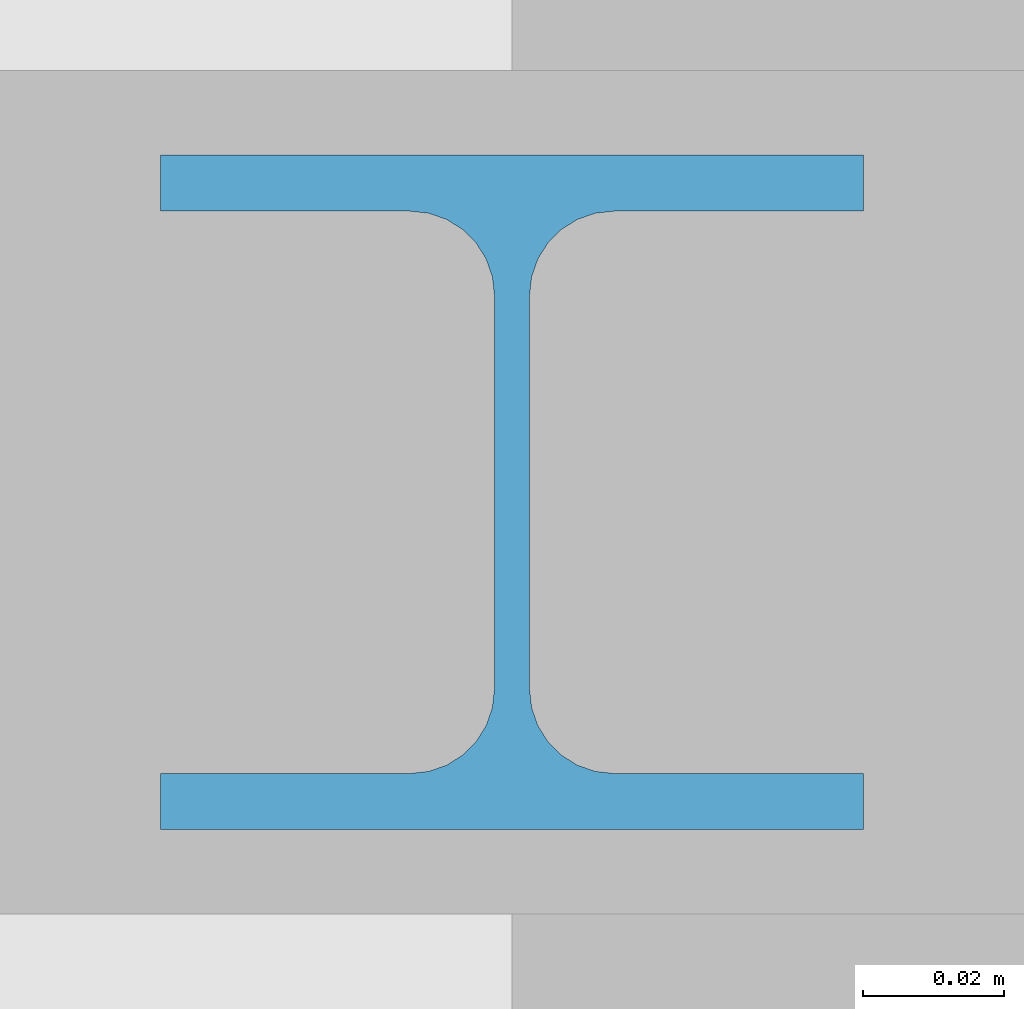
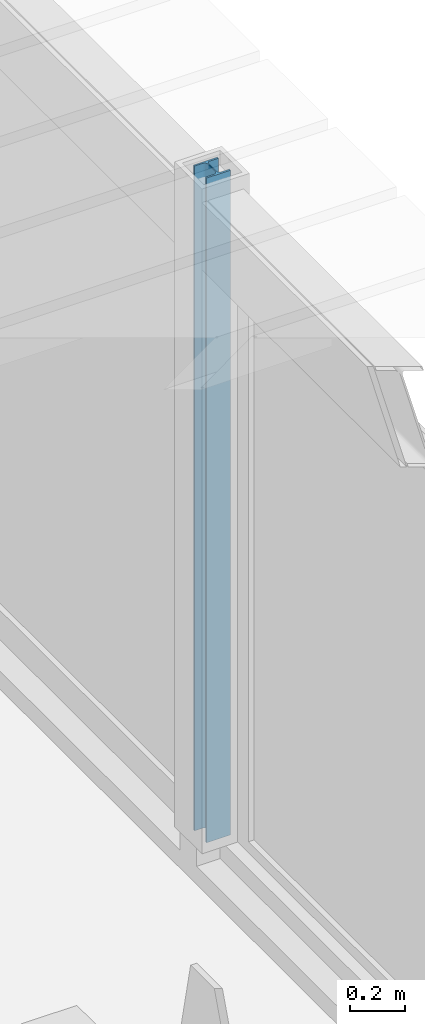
# One storey, part 7 of 28: 1 member.
"""IFC4X3_ADD2 building model written with IfcOpenShell, lengths in metres."""

from ifc_helpers import new_model, si_unit, direction, frame, origin_with_axes, origin_2d_with_axis, place, context, subcontext, project, spatial, i_section, extrude, material, element, save


model = new_model("IFC4X3_ADD2")

# Units and contexts
model_context = context("Model", 3, precision=1e-05, world=origin_with_axes(), true_north=direction((0.0, 1.0)))
body_context = subcontext(model_context, "Body", "Model", "MODEL_VIEW")
ifc_project = project(units=[si_unit("LENGTHUNIT", "METRE"), si_unit("AREAUNIT", "SQUARE_METRE"), si_unit("VOLUMEUNIT", "CUBIC_METRE"), si_unit("PLANEANGLEUNIT", "RADIAN"), si_unit("TIMEUNIT", "SECOND"), si_unit("MASSUNIT", "GRAM")], contexts=[model_context])

# Site, building, storey
site_placement = place(None, origin_with_axes())
site = spatial("IfcSite", under=ifc_project, at=site_placement, Name="Site", CompositionType="ELEMENT")
building_placement = place(site_placement, origin_with_axes())
building = spatial("IfcBuilding", under=site, at=building_placement, Name="Default Building")
storey_placement = place(building_placement, frame((0.0, 0.0, -0.08), z_axis=(0.0, 0.0, 1.0), x_axis=(1.0, 0.0, 0.0)))
storey = spatial("IfcBuildingStorey", under=building, at=storey_placement, Name="Gruendung", Elevation=-0.08)

# Member
ifc_material = material(Name="Default")
member_placement = place(storey_placement, frame((25.0, 9.500000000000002, 0.08), z_axis=(0.0, 0.0, 1.0), x_axis=(-1.0, 0.0, 0.0)))
element("IfcMember", 1, at=member_placement, inside=storey, material=ifc_material, Name="Wide Flange", ObjectType="HEA 100", context=body_context, shape_type="SweptSolid", body=[
    extrude(i_section(OverallWidth=0.1, OverallDepth=0.096, WebThickness=0.005, FlangeThickness=0.008, FilletRadius=0.012, at=origin_2d_with_axis()), origin_with_axes(), (0.0, 0.0, 1.0), 2.96),
])

save(model, "model.ifc")
